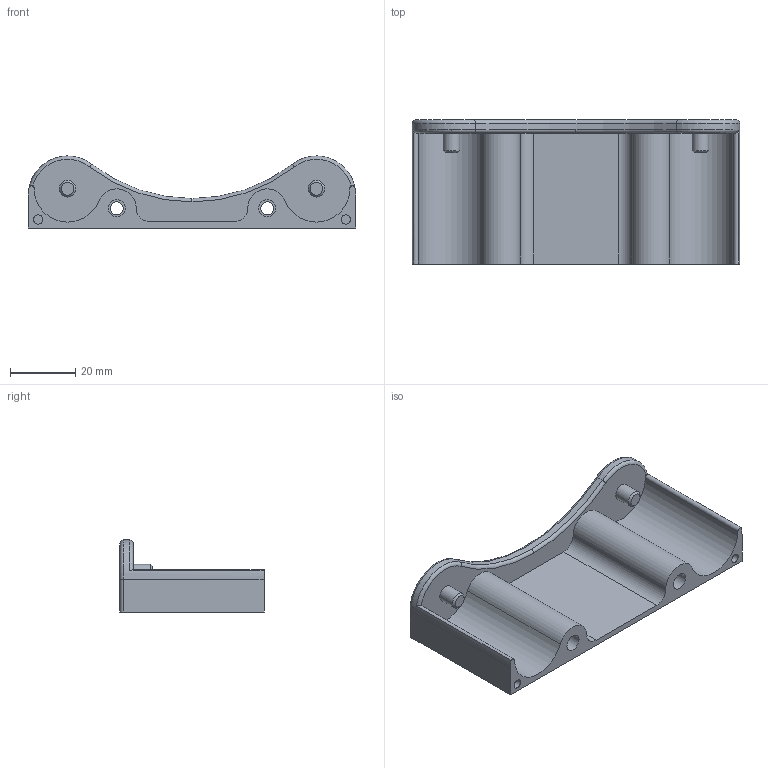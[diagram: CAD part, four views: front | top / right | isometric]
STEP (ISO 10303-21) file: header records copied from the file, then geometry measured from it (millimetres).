
FILE_DESCRIPTION(('FreeCAD Model'),'2;1');
FILE_NAME('Open CASCADE Shape Model','2025-11-29T15:58:39',( 'Benjamin W.'),('Chronic Mechatronic'), 'Open CASCADE STEP processor 7.8','FreeCAD','Unknown');
FILE_SCHEMA(('AUTOMOTIVE_DESIGN { 1 0 10303 214 1 1 1 1 }'));
Length unit declared in the file: millimetre
Products named in the file (1): half 1
Bounding box: 100 x 44 x 22 mm (x, y, z)
Volume: 25302.1 mm3; surface area: 15740.7 mm2
Topology: 1 solids, 1 shells, 47 faces, 107 edges, 68 vertices
Faces by surface type: cylinder 23, plane 13, torus 7, cone 4
Full cylindrical faces by diameter (mm): 2.8 x2, 4 x2, 5.1 x2, 5.2 x2, 10.2 x2
Entity records: 1436 total; most frequent: CARTESIAN_POINT 293, DIRECTION 262, ORIENTED_EDGE 214, AXIS2_PLACEMENT_3D 111, EDGE_CURVE 107, VERTEX_POINT 68, CIRCLE 63, FACE_BOUND 57
